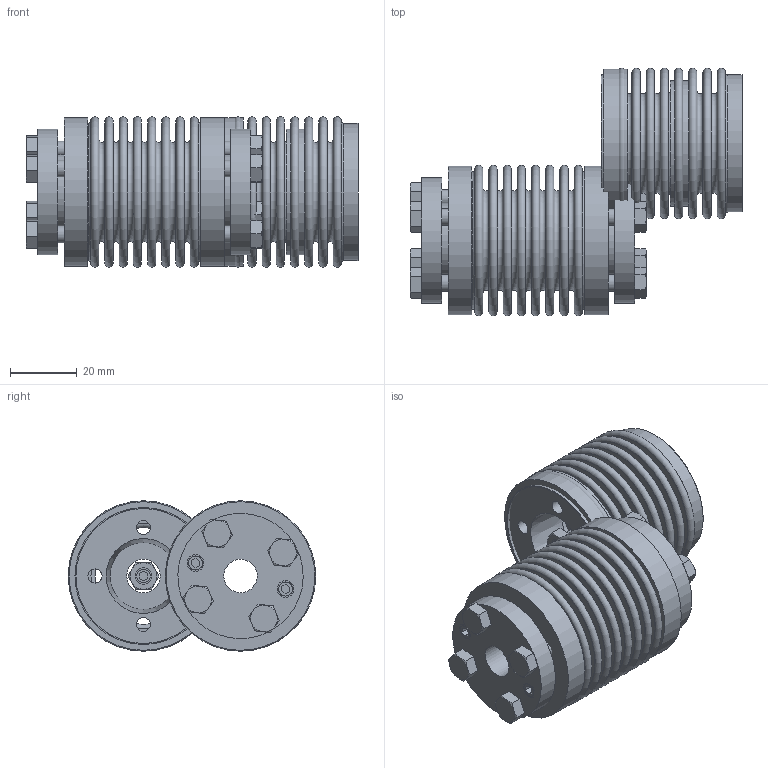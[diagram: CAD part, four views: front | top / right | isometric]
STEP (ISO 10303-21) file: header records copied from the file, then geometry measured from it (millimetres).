
FILE_DESCRIPTION( ( 'Unknown' ), '1' );
FILE_NAME( 'C:/Dokumente und Einstellungen/Sven/Desktop/homepage/cad - homepage/KB5/KB5-18-71.stp', 'Unknown', ( 'Unknown' ), ( 'Unknown' ), 'XStep 1.0', 'Unknown', ' ' );
FILE_SCHEMA( ( 'automotive_design' ) );
Length unit declared in the file: millimetre
Products named in the file (6): Assem1; Hex Screw GradeC_DIN_ISO 4018 - M5 x 16-NN_0; KB18_Standard_0; Socket Set Screw Cup Point_DIN_DIN 916 - M5 x 6-N_0; BA18_Standard_0; BL18_Standard
Bounding box: 99.35 x 74.05 x 45 mm (x, y, z)
Volume: 70772.4 mm3; surface area: 99370.4 mm2
Topology: 22 solids, 22 shells, 427 faces, 887 edges, 567 vertices
Faces by surface type: plane 203, cone 84, cylinder 76, torus 64
Full cylindrical faces by diameter (mm): 4.2 x18, 5 x14, 5.5 x12, 10 x3, 22.4 x3, 37.5 x3, 40.4 x4, 41 x4, 44.5 x3
Entity records: 3199 total; most frequent: DIRECTION 568, CARTESIAN_POINT 500, ORIENTED_EDGE 348, AXIS2_PLACEMENT_3D 265, EDGE_LOOP 236, FACE_OUTER_BOUND 175, EDGE_CURVE 174, VERTEX_POINT 149
